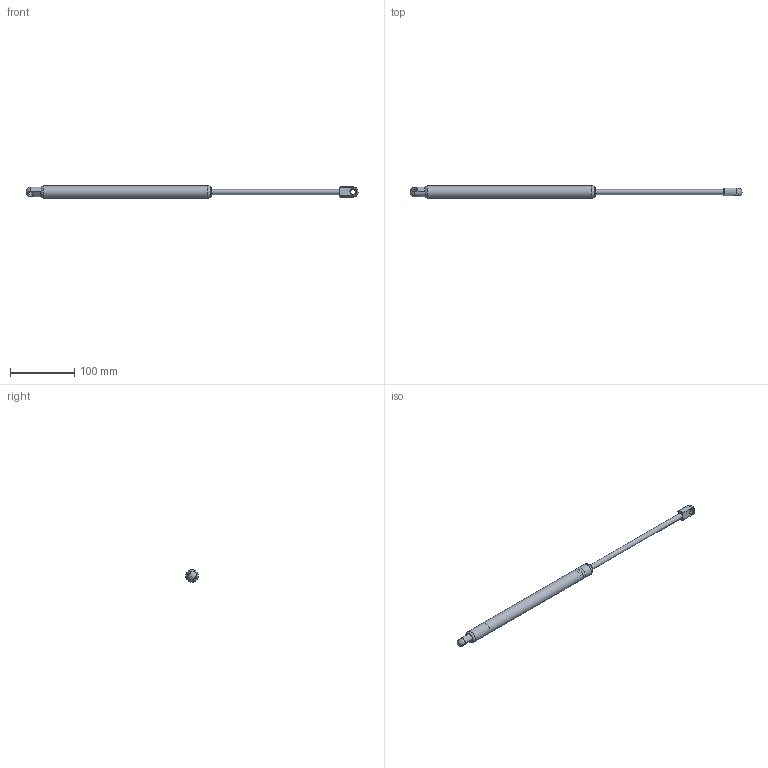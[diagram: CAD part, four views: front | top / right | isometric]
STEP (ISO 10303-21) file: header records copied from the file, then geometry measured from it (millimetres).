
FILE_DESCRIPTION(/* description */ ('STEP AP214'),/* implementation_level */ '2;1');
FILE_NAME(/* name */ 'C:\Users\marco.dallariva\Desktop\Molle a Gas\A1A140200500.100.stp',/* time_stamp */ '2022-06-13T17:40:24+02:00',/* author */ ('marco.dallariva'),/* organization */ ('CADENAS'),/* preprocessor_version */ 'ST-DEVELOPER v18.1',/* originating_system */ 'Autodesk Inventor 2021',/* authorisation */ ' ');
FILE_SCHEMA (('AUTOMOTIVE_DESIGN { 1 0 10303 214 3 1 1 }'));
Length unit declared in the file: millimetre
Products named in the file (5): Bansbach+A1A1-40-200-500--0XX_100N(017); _-8_19(200717A1); _A1-8_19(200717); _A18AK; _A119AZ
Assembly tree (4 placements, depth 2):
  Bansbach+A1A1-40-200-500--0XX_100N(017)
    _-8_19(200717A1)
    _A1-8_19(200717)
    _A18AK
    _A119AZ
Bounding box: 515.5 x 19 x 19 mm (x, y, z)
Volume: 44174.4 mm3; surface area: 38374.2 mm2
Topology: 4 solids, 4 shells, 46 faces, 95 edges, 62 vertices
Faces by surface type: plane 19, cylinder 14, cone 8, torus 3, sphere 2
Full cylindrical faces by diameter (mm): 6.647 x1, 8 x2, 8.2 x3, 15 x1, 15.1 x1, 17.1 x3, 19 x1
Entity records: 1471 total; most frequent: DIRECTION 256, CARTESIAN_POINT 217, ORIENTED_EDGE 184, AXIS2_PLACEMENT_3D 113, EDGE_CURVE 92, VERTEX_POINT 62, EDGE_LOOP 58, CIRCLE 58
